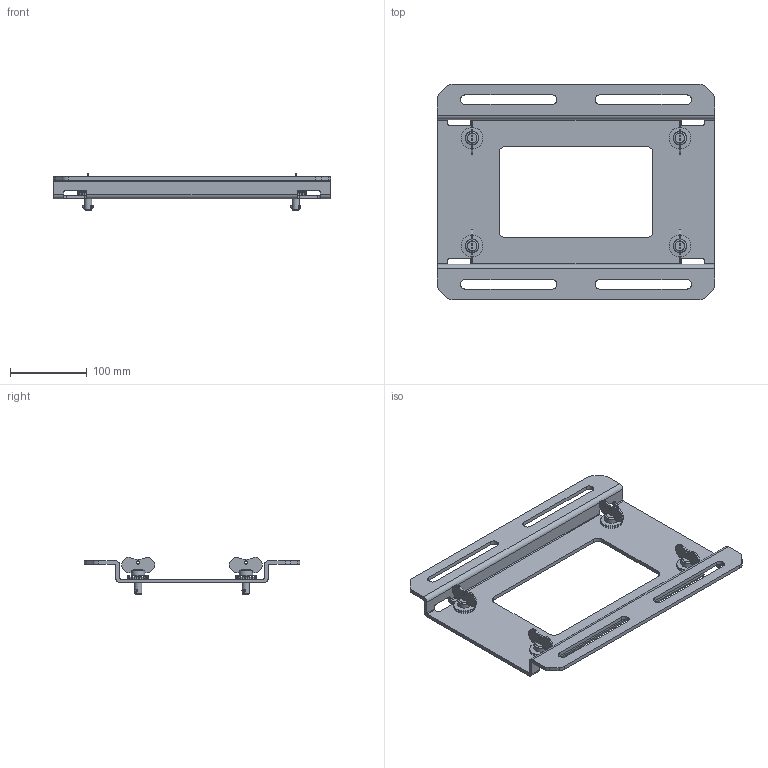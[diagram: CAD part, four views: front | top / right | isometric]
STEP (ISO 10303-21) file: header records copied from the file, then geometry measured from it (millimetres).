
FILE_DESCRIPTION(/* description */ ('Unknown'),/* implementation_level */ '2;1');
FILE_NAME(/* name */ '99019278 WTF! 300mm Truss mounting plate',/* time_stamp */ '2026-07-17T06:13:27+02:00',/* author */ ('Unknown'),/* organization */ ('Unknown'),/* preprocessor_version */ 'ST-DEVELOPER v20',/* originating_system */ 'Solid Edge',/* authorisation */ 'Unknown');
FILE_SCHEMA (('AUTOMOTIVE_DESIGN {1 0 10303 214 3 1 1}'));
Length unit declared in the file: millimetre
Products named in the file (7): 02_WTF; 11040127 Truss 300mm mounting plate; 18060050 Šroub CAMLOC 9 s køidélkem; 18060048 Šroub CAMLOC 9; 11010728-01 Køidelko CAMLOC 9; 17030152 Kolík 4x14 DIN1475; 17530135 Talíøová pružina 28x10,2x0,8 mZn
Assembly tree (23 placements, depth 3):
  02_WTF
    11040127 Truss 300mm mounting plate
    18060050 Šroub CAMLOC 9 s køidélkem  x4
      18060048 Šroub CAMLOC 9
      11010728-01 Køidelko CAMLOC 9
    17030152 Kolík 4x14 DIN1475  x4
    17530135 Talíøová pružina 28x10,2x0,8 mZn  x12
Bounding box: 360 x 280 x 48.3 mm (x, y, z)
Volume: 441487.3 mm3; surface area: 212626.6 mm2
Topology: 25 solids, 25 shells, 362 faces, 936 edges, 612 vertices
Faces by surface type: plane 158, cylinder 148, cone 44, torus 12
Full cylindrical faces by diameter (mm): 4 x4, 4.2 x4, 9.5 x4, 10.2 x12, 11 x4, 17.5 x4, 28 x12
Entity records: 5891 total; most frequent: CARTESIAN_POINT 1031, DIRECTION 1024, ORIENTED_EDGE 942, EDGE_CURVE 471, AXIS2_PLACEMENT_3D 374, VERTEX_POINT 321, LINE 276, VECTOR 276
